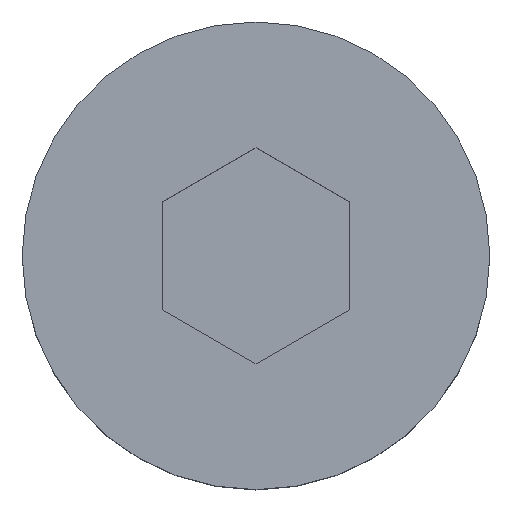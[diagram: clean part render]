
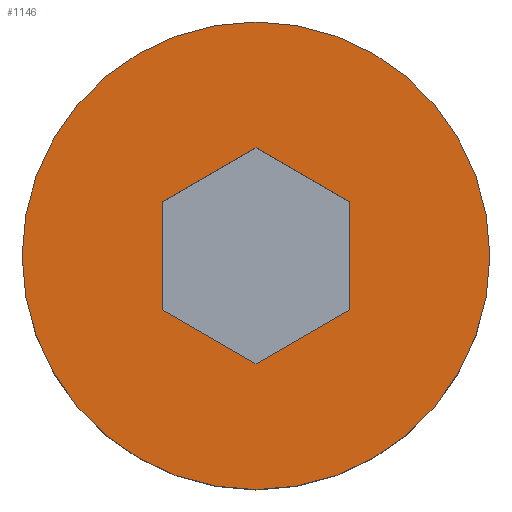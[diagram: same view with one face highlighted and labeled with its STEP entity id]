
A CAD part, top view. The second image highlights one B-rep face of the part: STEP entity #1146.
In plain terms, the highlighted planar face has unit normal (0, 0, 1).
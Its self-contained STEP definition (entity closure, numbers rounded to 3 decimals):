
#75 = LINE ( 'NONE', #656, #717 ) ;
#93 = AXIS2_PLACEMENT_3D ( 'NONE', #673, #669, #661 ) ;
#112 = VECTOR ( 'NONE', #743, 1000. ) ;
#122 = CARTESIAN_POINT ( 'NONE',  ( -4., -2.309, 8. ) ) ;
#128 = VECTOR ( 'NONE', #676, 1000. ) ;
#137 = LINE ( 'NONE', #787, #112 ) ;
#165 = LINE ( 'NONE', #578, #288 ) ;
#167 = AXIS2_PLACEMENT_3D ( 'NONE', #1062, #1055, #1052 ) ;
#170 = FACE_BOUND ( 'NONE', #592, .T. ) ;
#186 = CARTESIAN_POINT ( 'NONE',  ( 4., 2.309, 8. ) ) ;
#213 = VERTEX_POINT ( 'NONE', #929 ) ;
#221 = CARTESIAN_POINT ( 'NONE',  ( 10., 0., 8. ) ) ;
#240 = VERTEX_POINT ( 'NONE', #641 ) ;
#288 = VECTOR ( 'NONE', #562, 1000. ) ;
#326 = VERTEX_POINT ( 'NONE', #221 ) ;
#400 = CARTESIAN_POINT ( 'NONE',  ( 0., 4.619, 8. ) ) ;
#405 = DIRECTION ( 'NONE',  ( 0.866, -0.5, 0. ) ) ;
#450 = CARTESIAN_POINT ( 'NONE',  ( -4., 0., 8. ) ) ;
#541 = LINE ( 'NONE', #450, #1193 ) ;
#545 = DIRECTION ( 'NONE',  ( 0., -1., 0. ) ) ;
#562 = DIRECTION ( 'NONE',  ( 0.866, 0.5, 0. ) ) ;
#565 = VERTEX_POINT ( 'NONE', #186 ) ;
#572 = CARTESIAN_POINT ( 'NONE',  ( 5.5, -7.794, 8. ) ) ;
#578 = CARTESIAN_POINT ( 'NONE',  ( 9.5, 0.866, 8. ) ) ;
#586 = DIRECTION ( 'NONE',  ( 0., 1., 0. ) ) ;
#592 = EDGE_LOOP ( 'NONE', ( #911, #931, #940, #942, #957, #958 ) ) ;
#641 = CARTESIAN_POINT ( 'NONE',  ( 4., -2.309, 8. ) ) ;
#644 = LINE ( 'NONE', #572, #1182 ) ;
#646 = CARTESIAN_POINT ( 'NONE',  ( -10., 0., 8. ) ) ;
#648 = EDGE_CURVE ( 'NONE', #326, #736, #682, .T. ) ;
#656 = CARTESIAN_POINT ( 'NONE',  ( 4., 0., 8. ) ) ;
#661 = DIRECTION ( 'NONE',  ( 1., 0., 0. ) ) ;
#669 = DIRECTION ( 'NONE',  ( 0., 0., 1. ) ) ;
#673 = CARTESIAN_POINT ( 'NONE',  ( 0., 0., 8. ) ) ;
#676 = DIRECTION ( 'NONE',  ( -0.866, 0.5, 0. ) ) ;
#682 = CIRCLE ( 'NONE', #167, 10. ) ;
#692 = CARTESIAN_POINT ( 'NONE',  ( 9.5, -0.866, 8. ) ) ;
#717 = VECTOR ( 'NONE', #586, 1000. ) ;
#725 = EDGE_CURVE ( 'NONE', #736, #326, #914, .T. ) ;
#726 = EDGE_CURVE ( 'NONE', #1113, #915, #137, .T. ) ;
#733 = EDGE_CURVE ( 'NONE', #565, #1113, #782, .T. ) ;
#736 = VERTEX_POINT ( 'NONE', #646 ) ;
#741 = EDGE_CURVE ( 'NONE', #240, #565, #75, .T. ) ;
#743 = DIRECTION ( 'NONE',  ( -0.866, -0.5, 0. ) ) ;
#751 = EDGE_CURVE ( 'NONE', #213, #240, #165, .T. ) ;
#762 = EDGE_CURVE ( 'NONE', #813, #213, #644, .T. ) ;
#770 = EDGE_CURVE ( 'NONE', #915, #813, #541, .T. ) ;
#782 = LINE ( 'NONE', #692, #128 ) ;
#787 = CARTESIAN_POINT ( 'NONE',  ( 5.5, 7.794, 8. ) ) ;
#813 = VERTEX_POINT ( 'NONE', #122 ) ;
#857 = CARTESIAN_POINT ( 'NONE',  ( -4., 2.309, 8. ) ) ;
#876 = ORIENTED_EDGE ( 'NONE', *, *, #648, .T. ) ;
#877 = ORIENTED_EDGE ( 'NONE', *, *, #725, .T. ) ;
#896 = DIRECTION ( 'NONE',  ( -1., 0., 0. ) ) ;
#902 = DIRECTION ( 'NONE',  ( 0., 0., -1. ) ) ;
#905 = CARTESIAN_POINT ( 'NONE',  ( 10., 0., 8. ) ) ;
#911 = ORIENTED_EDGE ( 'NONE', *, *, #726, .F. ) ;
#914 = CIRCLE ( 'NONE', #93, 10. ) ;
#915 = VERTEX_POINT ( 'NONE', #857 ) ;
#929 = CARTESIAN_POINT ( 'NONE',  ( 0., -4.619, 8. ) ) ;
#931 = ORIENTED_EDGE ( 'NONE', *, *, #733, .F. ) ;
#940 = ORIENTED_EDGE ( 'NONE', *, *, #741, .F. ) ;
#942 = ORIENTED_EDGE ( 'NONE', *, *, #751, .F. ) ;
#957 = ORIENTED_EDGE ( 'NONE', *, *, #762, .F. ) ;
#958 = ORIENTED_EDGE ( 'NONE', *, *, #770, .F. ) ;
#985 = FACE_OUTER_BOUND ( 'NONE', #1103, .T. ) ;
#1000 = PLANE ( 'NONE',  #1012 ) ;
#1012 = AXIS2_PLACEMENT_3D ( 'NONE', #905, #902, #896 ) ;
#1052 = DIRECTION ( 'NONE',  ( 1., 0., 0. ) ) ;
#1055 = DIRECTION ( 'NONE',  ( 0., 0., 1. ) ) ;
#1062 = CARTESIAN_POINT ( 'NONE',  ( 0., 0., 8. ) ) ;
#1103 = EDGE_LOOP ( 'NONE', ( #876, #877 ) ) ;
#1113 = VERTEX_POINT ( 'NONE', #400 ) ;
#1146 = ADVANCED_FACE ( 'NONE', ( #985, #170 ), #1000, .F. ) ;
#1182 = VECTOR ( 'NONE', #405, 1000. ) ;
#1193 = VECTOR ( 'NONE', #545, 1000. ) ;
